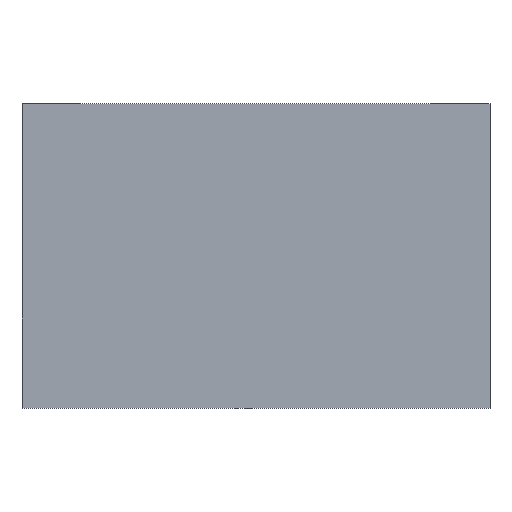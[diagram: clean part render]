
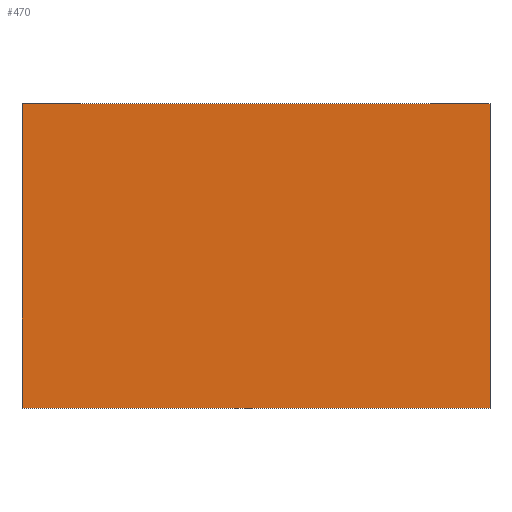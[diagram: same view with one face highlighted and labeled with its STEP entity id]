
A CAD part, top view. The second image highlights one B-rep face of the part: STEP entity #470.
In plain terms, the highlighted planar face has unit normal (0, 0, 1).
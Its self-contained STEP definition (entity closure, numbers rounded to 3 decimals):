
#9 = EDGE_CURVE ( 'NONE', #201, #284, #493, .T. ) ;
#18 = VERTEX_POINT ( 'NONE', #211 ) ;
#31 = DIRECTION ( 'NONE',  ( 0., 0., -1. ) ) ;
#32 = LINE ( 'NONE', #440, #255 ) ;
#39 = CARTESIAN_POINT ( 'NONE',  ( 10., 11.1, 0. ) ) ;
#56 = DIRECTION ( 'NONE',  ( -1., 0., 0. ) ) ;
#94 = CARTESIAN_POINT ( 'NONE',  ( 10., -1.9, 0. ) ) ;
#158 = VECTOR ( 'NONE', #605, 1000. ) ;
#162 = CARTESIAN_POINT ( 'NONE',  ( -10., 11.1, 0. ) ) ;
#168 = EDGE_CURVE ( 'NONE', #633, #18, #345, .T. ) ;
#183 = CARTESIAN_POINT ( 'NONE',  ( 10., 11.1, 0. ) ) ;
#199 = VECTOR ( 'NONE', #56, 1000. ) ;
#201 = VERTEX_POINT ( 'NONE', #500 ) ;
#210 = AXIS2_PLACEMENT_3D ( 'NONE', #278, #31, #592 ) ;
#211 = CARTESIAN_POINT ( 'NONE',  ( -10., -1.9, 0. ) ) ;
#251 = DIRECTION ( 'NONE',  ( 0., -1., 0. ) ) ;
#255 = VECTOR ( 'NONE', #251, 1000. ) ;
#278 = CARTESIAN_POINT ( 'NONE',  ( 10., 11.1, 0. ) ) ;
#284 = VERTEX_POINT ( 'NONE', #162 ) ;
#306 = ORIENTED_EDGE ( 'NONE', *, *, #168, .F. ) ;
#314 = ORIENTED_EDGE ( 'NONE', *, *, #355, .T. ) ;
#324 = FACE_OUTER_BOUND ( 'NONE', #575, .T. ) ;
#345 = LINE ( 'NONE', #504, #655 ) ;
#355 = EDGE_CURVE ( 'NONE', #284, #18, #32, .T. ) ;
#364 = ORIENTED_EDGE ( 'NONE', *, *, #651, .F. ) ;
#398 = LINE ( 'NONE', #39, #158 ) ;
#440 = CARTESIAN_POINT ( 'NONE',  ( -10., 11.1, 0. ) ) ;
#470 = ADVANCED_FACE ( 'NONE', ( #324 ), #533, .F. ) ;
#472 = ORIENTED_EDGE ( 'NONE', *, *, #9, .T. ) ;
#493 = LINE ( 'NONE', #183, #199 ) ;
#500 = CARTESIAN_POINT ( 'NONE',  ( 10., 11.1, 0. ) ) ;
#504 = CARTESIAN_POINT ( 'NONE',  ( 10., -1.9, 0. ) ) ;
#533 = PLANE ( 'NONE',  #210 ) ;
#575 = EDGE_LOOP ( 'NONE', ( #472, #314, #306, #364 ) ) ;
#592 = DIRECTION ( 'NONE',  ( 0., 1., 0. ) ) ;
#600 = DIRECTION ( 'NONE',  ( -1., 0., 0. ) ) ;
#605 = DIRECTION ( 'NONE',  ( 0., -1., 0. ) ) ;
#633 = VERTEX_POINT ( 'NONE', #94 ) ;
#651 = EDGE_CURVE ( 'NONE', #201, #633, #398, .T. ) ;
#655 = VECTOR ( 'NONE', #600, 1000. ) ;
